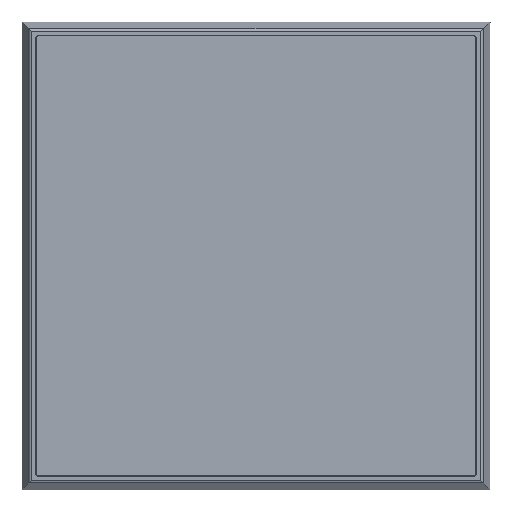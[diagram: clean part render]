
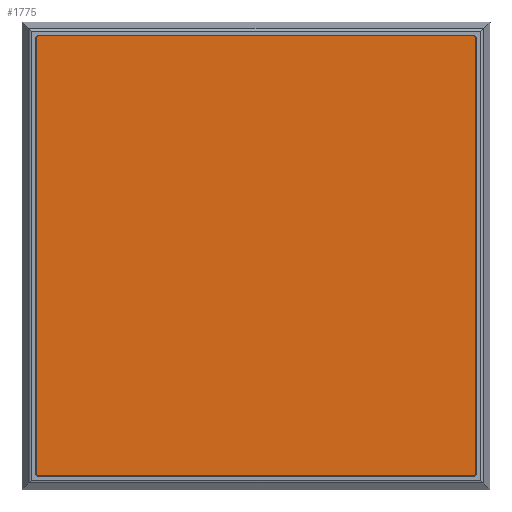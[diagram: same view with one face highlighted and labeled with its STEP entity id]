
A CAD part, top view. The second image highlights one B-rep face of the part: STEP entity #1775.
In plain terms, the highlighted planar face has unit normal (0, 0, 1).
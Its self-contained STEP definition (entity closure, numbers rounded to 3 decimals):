
#28 = ORIENTED_EDGE ( 'NONE', *, *, #1561, .T. ) ;
#34 = VECTOR ( 'NONE', #728, 1000. ) ;
#57 = VERTEX_POINT ( 'NONE', #233 ) ;
#112 = CARTESIAN_POINT ( 'NONE',  ( -45.098, 45.597, -1. ) ) ;
#122 = CARTESIAN_POINT ( 'NONE',  ( 45.597, 45.597, -1. ) ) ;
#123 = CARTESIAN_POINT ( 'NONE',  ( -45.597, -45.39, -1. ) ) ;
#150 = CARTESIAN_POINT ( 'NONE',  ( 45.597, -45.39, -1. ) ) ;
#160 = LINE ( 'NONE', #1078, #34 ) ;
#215 = VERTEX_POINT ( 'NONE', #938 ) ;
#233 = CARTESIAN_POINT ( 'NONE',  ( -45.597, 45.098, -1. ) ) ;
#252 = CARTESIAN_POINT ( 'NONE',  ( -45.098, 45.597, -1. ) ) ;
#290 = FACE_OUTER_BOUND ( 'NONE', #1003, .T. ) ;
#422 = DIRECTION ( 'NONE',  ( 0., 0., 1. ) ) ;
#571 = CARTESIAN_POINT ( 'NONE',  ( 45.597, -45.098, -1. ) ) ;
#576 = CARTESIAN_POINT ( 'NONE',  ( 45.597, 45.39, -1. ) ) ;
#587 = VECTOR ( 'NONE', #1992, 1000. ) ;
#645 = VERTEX_POINT ( 'NONE', #1624 ) ;
#650 = EDGE_CURVE ( 'NONE', #1678, #865, #723, .T. ) ;
#665 = ORIENTED_EDGE ( 'NONE', *, *, #1489, .T. ) ;
#681 = VERTEX_POINT ( 'NONE', #571 ) ;
#695 = VECTOR ( 'NONE', #1506, 1000. ) ;
#723 = LINE ( 'NONE', #1965, #1512 ) ;
#728 = DIRECTION ( 'NONE',  ( 0., 1., 0. ) ) ;
#750 = ORIENTED_EDGE ( 'NONE', *, *, #1141, .T. ) ;
#786 = EDGE_CURVE ( 'NONE', #57, #1720, #2015, .T. ) ;
#850 = CARTESIAN_POINT ( 'NONE',  ( -45.597, -45.098, -1. ) ) ;
#858 = EDGE_CURVE ( 'NONE', #865, #681, #1884, .T. ) ;
#865 = VERTEX_POINT ( 'NONE', #1677 ) ;
#929 = CARTESIAN_POINT ( 'NONE',  ( 45.597, 45.098, -1. ) ) ;
#938 = CARTESIAN_POINT ( 'NONE',  ( 45.098, 45.597, -1. ) ) ;
#1003 = EDGE_LOOP ( 'NONE', ( #1027, #28, #1324, #1080, #1924, #750, #1116, #665 ) ) ;
#1006 = EDGE_CURVE ( 'NONE', #681, #645, #160, .T. ) ;
#1027 = ORIENTED_EDGE ( 'NONE', *, *, #786, .T. ) ;
#1078 = CARTESIAN_POINT ( 'NONE',  ( 45.597, 45.597, -1. ) ) ;
#1080 = ORIENTED_EDGE ( 'NONE', *, *, #858, .T. ) ;
#1116 = ORIENTED_EDGE ( 'NONE', *, *, #2189, .T. ) ;
#1123 = DIRECTION ( 'NONE',  ( -1., 0., 0. ) ) ;
#1130 = CARTESIAN_POINT ( 'NONE',  ( 45.39, 45.597, -1. ) ) ;
#1135 = CARTESIAN_POINT ( 'NONE',  ( -45.098, -45.597, -1. ) ) ;
#1141 = EDGE_CURVE ( 'NONE', #645, #215, #2017, .T. ) ;
#1324 = ORIENTED_EDGE ( 'NONE', *, *, #650, .T. ) ;
#1339 = CARTESIAN_POINT ( 'NONE',  ( 45.098, -45.597, -1. ) ) ;
#1361 = CARTESIAN_POINT ( 'NONE',  ( 45.597, -45.098, -1. ) ) ;
#1365 = CARTESIAN_POINT ( 'NONE',  ( -45.597, 45.39, -1. ) ) ;
#1460 = LINE ( 'NONE', #2158, #587 ) ;
#1489 = EDGE_CURVE ( 'NONE', #1699, #57, #2033, .T. ) ;
#1496 =( BOUNDED_CURVE ( )  B_SPLINE_CURVE ( 3, ( #850, #123, #1511, #1883 ),
 .UNSPECIFIED., .F., .T. ) 
 B_SPLINE_CURVE_WITH_KNOTS ( ( 4, 4 ),
 ( 2.358, 3.926 ),
 .UNSPECIFIED. ) 
 CURVE ( )  GEOMETRIC_REPRESENTATION_ITEM ( )  RATIONAL_B_SPLINE_CURVE ( ( 1., 0.805, 0.805, 1. ) ) 
 REPRESENTATION_ITEM ( '' )  );
#1506 = DIRECTION ( 'NONE',  ( 0., -1., 0. ) ) ;
#1511 = CARTESIAN_POINT ( 'NONE',  ( -45.39, -45.597, -1. ) ) ;
#1512 = VECTOR ( 'NONE', #2141, 1000. ) ;
#1522 = CARTESIAN_POINT ( 'NONE',  ( -45.39, 45.597, -1. ) ) ;
#1561 = EDGE_CURVE ( 'NONE', #1720, #1678, #1496, .T. ) ;
#1624 = CARTESIAN_POINT ( 'NONE',  ( 45.597, 45.098, -1. ) ) ;
#1677 = CARTESIAN_POINT ( 'NONE',  ( 45.098, -45.597, -1. ) ) ;
#1678 = VERTEX_POINT ( 'NONE', #1135 ) ;
#1679 = PLANE ( 'NONE',  #1848 ) ;
#1699 = VERTEX_POINT ( 'NONE', #252 ) ;
#1715 = CARTESIAN_POINT ( 'NONE',  ( -45.597, 45.098, -1. ) ) ;
#1720 = VERTEX_POINT ( 'NONE', #2198 ) ;
#1775 = ADVANCED_FACE ( 'NONE', ( #290 ), #1679, .T. ) ;
#1845 = CARTESIAN_POINT ( 'NONE',  ( 45.39, -45.597, -1. ) ) ;
#1848 = AXIS2_PLACEMENT_3D ( 'NONE', #122, #422, #1123 ) ;
#1883 = CARTESIAN_POINT ( 'NONE',  ( -45.098, -45.597, -1. ) ) ;
#1884 =( BOUNDED_CURVE ( )  B_SPLINE_CURVE ( 3, ( #1339, #1845, #150, #1361 ),
 .UNSPECIFIED., .F., .T. ) 
 B_SPLINE_CURVE_WITH_KNOTS ( ( 4, 4 ),
 ( 2.358, 3.926 ),
 .UNSPECIFIED. ) 
 CURVE ( )  GEOMETRIC_REPRESENTATION_ITEM ( )  RATIONAL_B_SPLINE_CURVE ( ( 1., 0.805, 0.805, 1. ) ) 
 REPRESENTATION_ITEM ( '' )  );
#1924 = ORIENTED_EDGE ( 'NONE', *, *, #1006, .T. ) ;
#1965 = CARTESIAN_POINT ( 'NONE',  ( 45.597, -45.597, -1. ) ) ;
#1992 = DIRECTION ( 'NONE',  ( -1., 0., 0. ) ) ;
#2003 = CARTESIAN_POINT ( 'NONE',  ( -45.597, 45.597, -1. ) ) ;
#2015 = LINE ( 'NONE', #2003, #695 ) ;
#2017 =( BOUNDED_CURVE ( )  B_SPLINE_CURVE ( 3, ( #929, #576, #1130, #2167 ),
 .UNSPECIFIED., .F., .T. ) 
 B_SPLINE_CURVE_WITH_KNOTS ( ( 4, 4 ),
 ( 2.358, 3.926 ),
 .UNSPECIFIED. ) 
 CURVE ( )  GEOMETRIC_REPRESENTATION_ITEM ( )  RATIONAL_B_SPLINE_CURVE ( ( 1., 0.805, 0.805, 1. ) ) 
 REPRESENTATION_ITEM ( '' )  );
#2033 =( BOUNDED_CURVE ( )  B_SPLINE_CURVE ( 3, ( #112, #1522, #1365, #1715 ),
 .UNSPECIFIED., .F., .T. ) 
 B_SPLINE_CURVE_WITH_KNOTS ( ( 4, 4 ),
 ( 2.358, 3.926 ),
 .UNSPECIFIED. ) 
 CURVE ( )  GEOMETRIC_REPRESENTATION_ITEM ( )  RATIONAL_B_SPLINE_CURVE ( ( 1., 0.805, 0.805, 1. ) ) 
 REPRESENTATION_ITEM ( '' )  );
#2141 = DIRECTION ( 'NONE',  ( 1., 0., 0. ) ) ;
#2158 = CARTESIAN_POINT ( 'NONE',  ( 45.597, 45.597, -1. ) ) ;
#2167 = CARTESIAN_POINT ( 'NONE',  ( 45.098, 45.597, -1. ) ) ;
#2189 = EDGE_CURVE ( 'NONE', #215, #1699, #1460, .T. ) ;
#2198 = CARTESIAN_POINT ( 'NONE',  ( -45.597, -45.098, -1. ) ) ;
